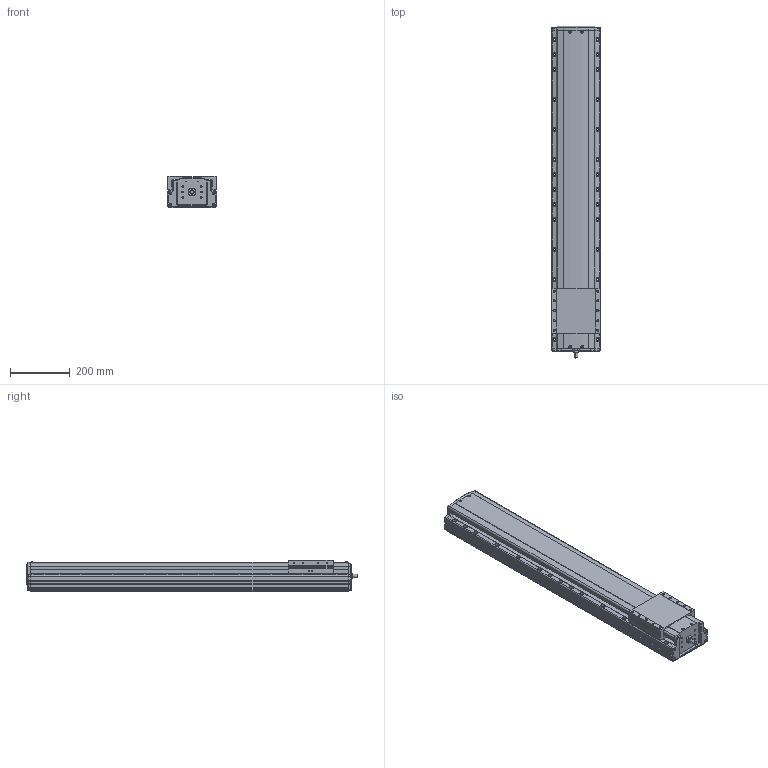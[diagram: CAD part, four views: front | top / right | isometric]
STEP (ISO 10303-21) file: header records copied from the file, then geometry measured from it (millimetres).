
FILE_DESCRIPTION(('STEP AP214'),'1');
FILE_NAME('Z:/Web/3D/PSA165/STP/PSA165-800 (3D)/PSA165ㅁㅁ-800.stp','2014-06-23T11:45:58',(' '),(' '),'Spatial InterOp 3D',' ',' ');
FILE_SCHEMA(('automotive_design'));
Length unit declared in the file: millimetre
Products named in the file (18): 스크루 : Round - M4.0 x 12.0; RRCV-PA160; BASE; 스크루 : Round - M4.0 x 10.0; RN15; Screw 20; SLIDE; FRCV
Bounding box: 165 x 1108.8 x 104 mm (x, y, z)
Volume: 14851332.6 mm3; surface area: 927722.4 mm2
Topology: 18 solids, 18 shells, 1983 faces, 5393 edges, 3437 vertices
Faces by surface type: plane 1056, cylinder 669, cone 185, sphere 32, bspline 25, torus 16
Entity records: 81476 total; most frequent: CARTESIAN_POINT 14985, DIRECTION 10541, ORIENTED_EDGE 10502, EDGE_CURVE 5251, AXIS2_PLACEMENT_3D 3527, LINE 3487, VECTOR 3487, VERTEX_POINT 3437
